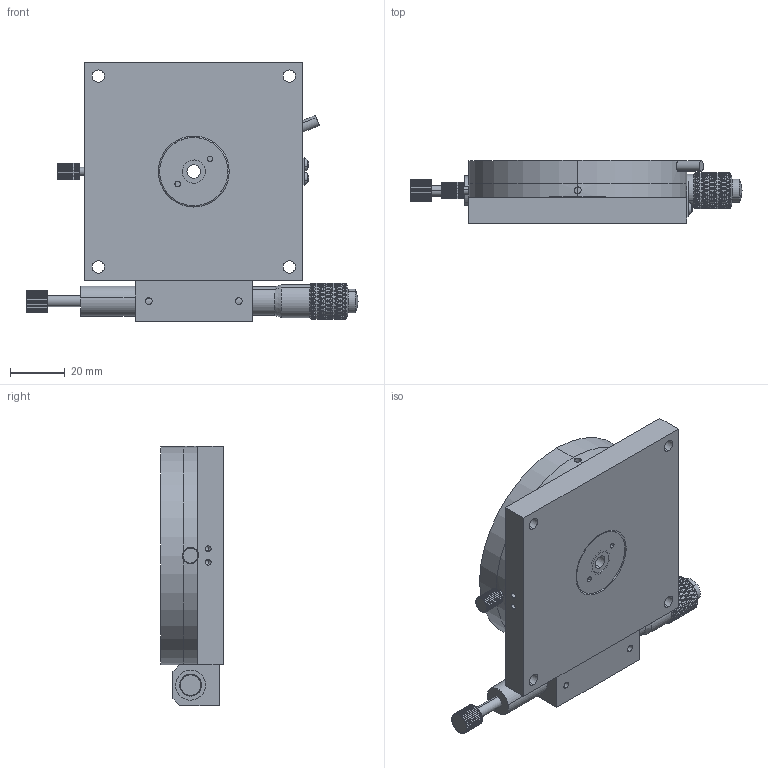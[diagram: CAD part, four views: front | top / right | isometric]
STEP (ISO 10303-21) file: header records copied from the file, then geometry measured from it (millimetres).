
FILE_DESCRIPTION (( 'STEP AP203' ), '1' );
FILE_NAME ('JCR-80L.STEP', '2013-12-24T02:51:28', ( 'MMO' ), ( '' ), 'SwSTEP 2.0', 'SolidWorks 2013', '' );
FILE_SCHEMA (( 'CONFIG_CONTROL_DESIGN' ));
Length unit declared in the file: millimetre
Products named in the file (18): JCR-60-07-01; JCR-80-02-01; JCR-60-08-01; JCR-80-03-01; JALB-72-R; 蝶楝蝶お漆橫葭(BA4060); JCR-60-09-01; JCR-80-04-01; JCR-60-10-01; deep groove ball bearing (series 68)_ks_KS B 2023 S68 - 6803-S; JCR-60-11-01; JCR-40-07-01; JCR-80L; socket head cap screw_ks_KS 1003 - M3 x 5 x 5-N; JCR-40-08-01; round cross head screw_ks_KS 1023 RC - M2.5 x 5-N; JCR-60-05-01; JCR-80-01-01
Assembly tree (19 placements, depth 2):
  JCR-80L
    JCR-80-01-01
    JCR-80-02-01
    JCR-80-03-01
    蝶楝蝶お漆橫葭(BA4060)
    JCR-80-04-01
    deep groove ball bearing (series 68)_ks_KS B 2023 S68 - 6803-S
    JCR-40-07-01
    JCR-40-08-01
    JCR-60-05-01
    JCR-60-07-01
    JCR-60-08-01
    JALB-72-R
    JCR-60-09-01
    JCR-60-10-01
    JCR-60-11-01
    socket head cap screw_ks_KS 1003 - M3 x 5 x 5-N  x2
    round cross head screw_ks_KS 1023 RC - M2.5 x 5-N  x2
Bounding box: 121.7 x 23 x 95 mm (x, y, z)
Volume: 138245.2 mm3; surface area: 56270.8 mm2
Topology: 19 solids, 19 shells, 1644 faces, 3709 edges, 2102 vertices
Faces by surface type: bspline 832, cylinder 554, plane 150, cone 64, torus 34, sphere 10
Entity records: 60827 total; most frequent: CARTESIAN_POINT 32630, ORIENTED_EDGE 7038, DIRECTION 3781, EDGE_CURVE 3519, VERTEX_POINT 2016, EDGE_LOOP 1679, AXIS2_PLACEMENT_3D 1621, ADVANCED_FACE 1581
